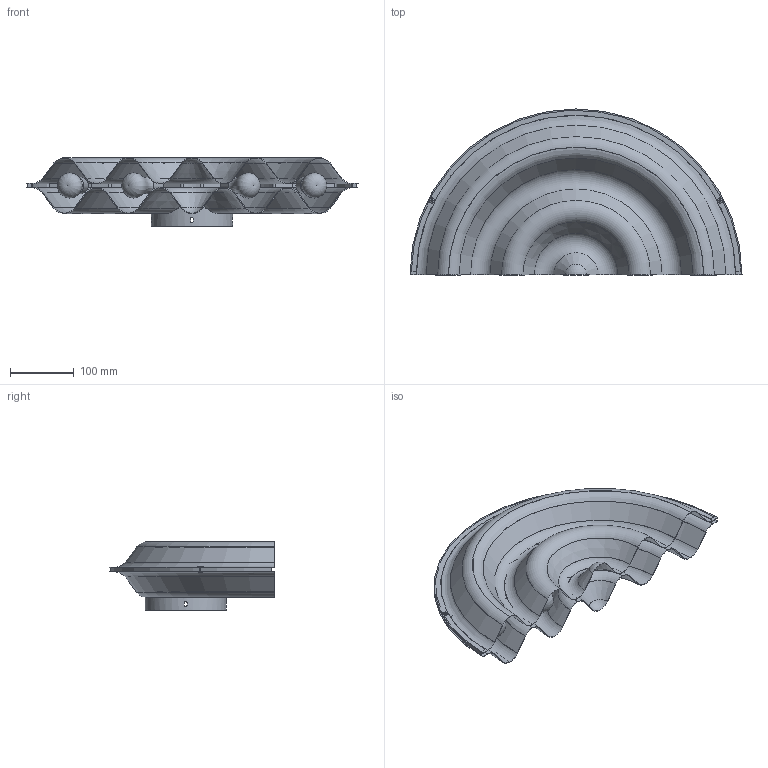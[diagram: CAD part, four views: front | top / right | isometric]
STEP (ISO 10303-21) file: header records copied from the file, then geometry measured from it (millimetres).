
FILE_DESCRIPTION(/* description */ (''),/* implementation_level */ '2;1');
FILE_NAME(/* name */ 'Doppler_Wall_Assembly simplifi v2.step',/* time_stamp */ '2024-10-29T09:54:24-04:00',/* author */ (''),/* organization */ (''),/* preprocessor_version */ 'ST-DEVELOPER v20',/* originating_system */ 'Autodesk Translation Framework v13.20.0.188',/* authorisation */ '');
FILE_SCHEMA (('AUTOMOTIVE_DESIGN { 1 0 10303 214 3 1 1 }'));
Length unit declared in the file: millimetre
Products named in the file (8): Doppler_Wall_Assembly simplifié; Doppler_Bracket_Close; Doppler_Ampoule; Doppler_Coque; 91770A144_Extra-Wide Truss Head Phillips Screws v1; 91770A144_Extra-Wide Truss Head Phillips Screws v1 (1); 192-007; Doppler Wall
Assembly tree (12 placements, depth 2):
  Doppler_Wall_Assembly simplifié
    Doppler_Bracket_Close
    Doppler_Coque  x2
    Doppler_Ampoule  x4
    91770A144_Extra-Wide Truss Head Phillips Screws v1
    91770A144_Extra-Wide Truss Head Phillips Screws v1 (1)
    192-007  x2
    Doppler Wall
Bounding box: 520.07 x 260 x 107.45 mm (x, y, z)
Volume: 609523.2 mm3; surface area: 701627.8 mm2
Topology: 16 solids, 16 shells, 454 faces, 1227 edges, 804 vertices
Faces by surface type: cylinder 141, plane 111, cone 85, bspline 72, torus 39, sphere 6
Full cylindrical faces by diameter (mm): 2.474 x14, 3.5 x1, 3.505 x12, 3.575 x2, 5.029 x2, 5.2 x8, 6.35 x2, 25.85 x4, 124.42 x1, 127 x1
Entity records: 19939 total; most frequent: CARTESIAN_POINT 9925, ORIENTED_EDGE 2152, DIRECTION 1992, EDGE_CURVE 1076, AXIS2_PLACEMENT_3D 785, VERTEX_POINT 706, LINE 422, VECTOR 422
